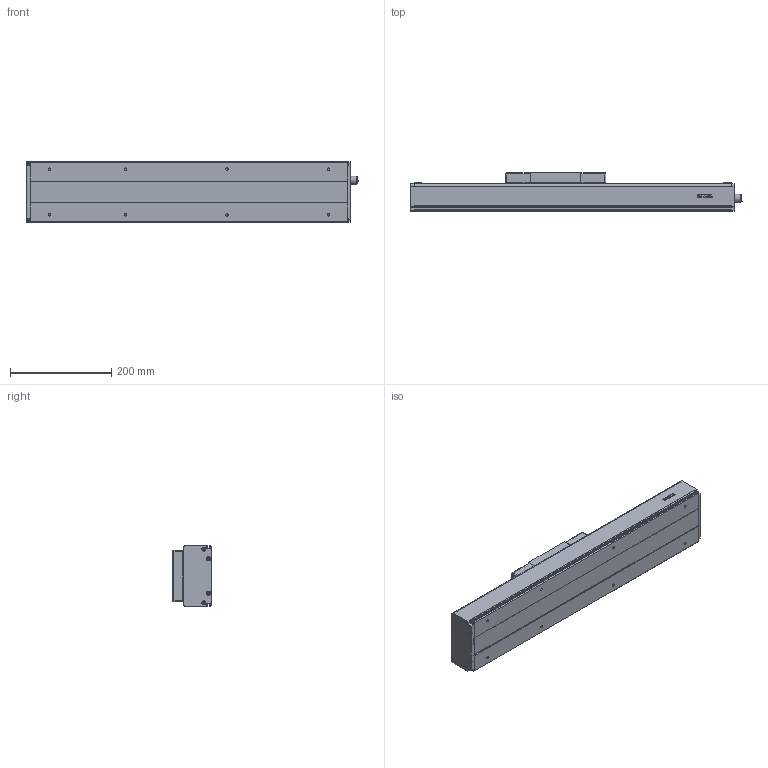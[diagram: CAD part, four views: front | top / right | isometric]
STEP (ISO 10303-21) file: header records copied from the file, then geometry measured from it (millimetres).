
FILE_DESCRIPTION(/* description */ (''),/* implementation_level */ '2;1');
FILE_NAME(/* name */ 'D:\混合母檔20191031\混和母檔\混和母檔\bin\Debug\Download\3D\KS120-5C-150AFI\KS120-5C-150AFI.stp',/* time_stamp */ '2019-11-04T14:55:28+08:00',/* author */ ('user'),/* organization */ (''),/* preprocessor_version */ 'ST-DEVELOPER v16.13',/* originating_system */ 'Autodesk Inventor 2018',/* authorisation */ '');
FILE_SCHEMA (('AUTOMOTIVE_DESIGN { 1 0 10303 214 3 1 1 }'));
Length unit declared in the file: millimetre
Products named in the file (3): KS120-5C-150AFI; KS120-FI; KS120-SL
Assembly tree (2 placements, depth 2):
  KS120-5C-150AFI
    KS120-FI
    KS120-SL
Bounding box: 654.5 x 77 x 120 mm (x, y, z)
Volume: 1757703.8 mm3; surface area: 548073 mm2
Topology: 4 solids, 11 shells, 987 faces, 2506 edges, 1609 vertices
Faces by surface type: plane 575, cylinder 182, bspline 136, cone 76, torus 14, sphere 4
Full cylindrical faces by diameter (mm): 2.459 x6, 3.242 x4, 4 x32, 4.3 x4, 4.5 x12, 4.917 x8, 6 x6, 7 x4, 8 x9, 8.4 x12, 10.437 x1, 12 x2, 14 x1, 15 x1, 15.538 x1, 19 x1, 28 x1, 30 x1
Entity records: 32586 total; most frequent: CARTESIAN_POINT 10532, ORIENTED_EDGE 4484, DIRECTION 4106, EDGE_CURVE 2240, VERTEX_POINT 1531, LINE 1502, VECTOR 1502, AXIS2_PLACEMENT_3D 1302
